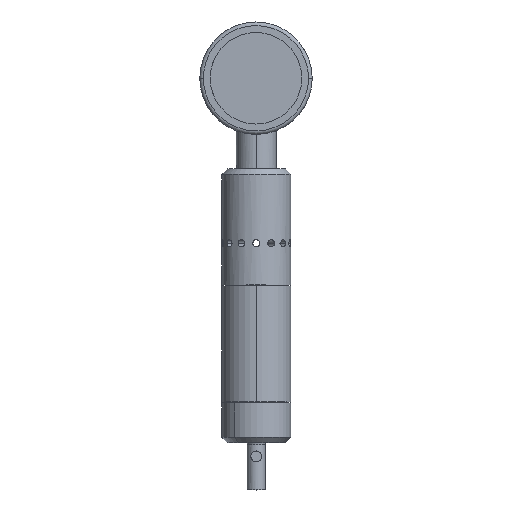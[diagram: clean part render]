
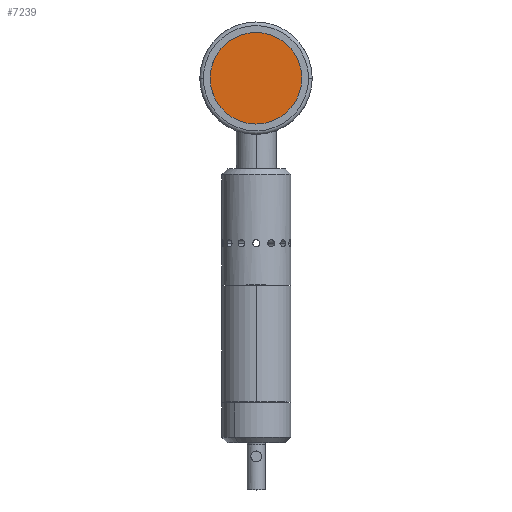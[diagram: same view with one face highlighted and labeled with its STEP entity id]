
A CAD part, top view. The second image highlights one B-rep face of the part: STEP entity #7239.
In plain terms, the highlighted planar face has unit normal (-0.005, 0, 1) as drawn and (0, 0, 1) by its records, which use the part's own axes.
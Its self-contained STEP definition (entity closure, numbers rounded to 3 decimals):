
#762 = CARTESIAN_POINT ( 'NONE',  ( -25.25, 0., 38. ) ) ;
#1124 = CIRCLE ( 'NONE', #2458, 25.25 ) ;
#1219 = DIRECTION ( 'NONE',  ( 0., 0., 1. ) ) ;
#1490 = VERTEX_POINT ( 'NONE', #4823 ) ;
#2318 = EDGE_LOOP ( 'NONE', ( #7079, #7275 ) ) ;
#2446 = CARTESIAN_POINT ( 'NONE',  ( 0., 0., 38. ) ) ;
#2458 = AXIS2_PLACEMENT_3D ( 'NONE', #6753, #2803, #7429 ) ;
#2803 = DIRECTION ( 'NONE',  ( 0., 0., 1. ) ) ;
#3018 = FACE_OUTER_BOUND ( 'NONE', #2318, .T. ) ;
#3082 = EDGE_CURVE ( 'NONE', #6520, #1490, #1124, .T. ) ;
#3099 = DIRECTION ( 'NONE',  ( -1., 0., 0. ) ) ;
#3820 = AXIS2_PLACEMENT_3D ( 'NONE', #2446, #7050, #3099 ) ;
#4823 = CARTESIAN_POINT ( 'NONE',  ( 25.25, 0., 38. ) ) ;
#5172 = CARTESIAN_POINT ( 'NONE',  ( 0., 0., 38. ) ) ;
#5705 = PLANE ( 'NONE',  #3820 ) ;
#5841 = DIRECTION ( 'NONE',  ( -1., 0., 0. ) ) ;
#6220 = CIRCLE ( 'NONE', #7654, 25.25 ) ;
#6520 = VERTEX_POINT ( 'NONE', #762 ) ;
#6753 = CARTESIAN_POINT ( 'NONE',  ( 0., 0., 38. ) ) ;
#7050 = DIRECTION ( 'NONE',  ( 0., 0., -1. ) ) ;
#7079 = ORIENTED_EDGE ( 'NONE', *, *, #7534, .T. ) ;
#7239 = ADVANCED_FACE ( 'NONE', ( #3018 ), #5705, .F. ) ;
#7275 = ORIENTED_EDGE ( 'NONE', *, *, #3082, .T. ) ;
#7429 = DIRECTION ( 'NONE',  ( -1., 0., 0. ) ) ;
#7534 = EDGE_CURVE ( 'NONE', #1490, #6520, #6220, .T. ) ;
#7654 = AXIS2_PLACEMENT_3D ( 'NONE', #5172, #1219, #5841 ) ;
